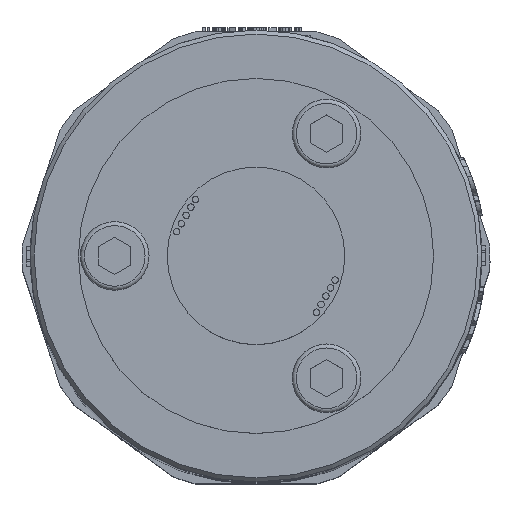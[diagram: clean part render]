
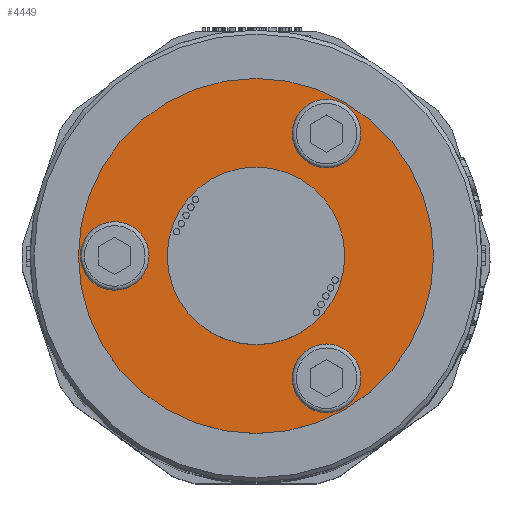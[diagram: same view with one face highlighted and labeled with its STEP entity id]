
A CAD part, top view. The second image highlights one B-rep face of the part: STEP entity #4449.
In plain terms, the highlighted planar face has unit normal (0, 0, 1).
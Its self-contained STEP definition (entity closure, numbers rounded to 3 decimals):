
#680=FACE_BOUND('',#7462,.T.);
#681=FACE_BOUND('',#7463,.T.);
#682=FACE_BOUND('',#7464,.T.);
#683=FACE_BOUND('',#7465,.T.);
#684=FACE_BOUND('',#7466,.T.);
#954=CIRCLE('',#21786,4.25);
#956=CIRCLE('',#21790,4.25);
#959=CIRCLE('',#21803,4.25);
#983=CIRCLE('',#21860,11.);
#984=CIRCLE('',#21862,22.);
#4449=ADVANCED_FACE('',(#680,#681,#682,#683,#684),#4992,.T.);
#4992=PLANE('',#21863);
#7462=EDGE_LOOP('',(#13446));
#7463=EDGE_LOOP('',(#13447));
#7464=EDGE_LOOP('',(#13448));
#7465=EDGE_LOOP('',(#13449));
#7466=EDGE_LOOP('',(#13450));
#13446=ORIENTED_EDGE('',*,*,#18368,.F.);
#13447=ORIENTED_EDGE('',*,*,#18370,.F.);
#13448=ORIENTED_EDGE('',*,*,#18391,.F.);
#13449=ORIENTED_EDGE('',*,*,#18434,.T.);
#13450=ORIENTED_EDGE('',*,*,#18433,.F.);
#15450=VERTEX_POINT('',#42510);
#15452=VERTEX_POINT('',#42516);
#15467=VERTEX_POINT('',#42562);
#15503=VERTEX_POINT('',#42673);
#15504=VERTEX_POINT('',#42676);
#18368=EDGE_CURVE('',#15450,#15450,#954,.T.);
#18370=EDGE_CURVE('',#15452,#15452,#956,.T.);
#18391=EDGE_CURVE('',#15467,#15467,#959,.T.);
#18433=EDGE_CURVE('',#15503,#15503,#983,.T.);
#18434=EDGE_CURVE('',#15504,#15504,#984,.T.);
#21786=AXIS2_PLACEMENT_3D('',#42509,#24966,#24967);
#21790=AXIS2_PLACEMENT_3D('',#42515,#24974,#24975);
#21803=AXIS2_PLACEMENT_3D('',#42561,#25018,#25019);
#21860=AXIS2_PLACEMENT_3D('',#42672,#25150,#25151);
#21862=AXIS2_PLACEMENT_3D('',#42675,#25154,#25155);
#21863=AXIS2_PLACEMENT_3D('',#42677,#25156,#25157);
#24966=DIRECTION('',(0.,0.,1.));
#24967=DIRECTION('',(-0.866,0.5,0.));
#24974=DIRECTION('',(0.,0.,1.));
#24975=DIRECTION('',(-0.866,0.5,0.));
#25018=DIRECTION('',(0.,0.,1.));
#25019=DIRECTION('',(-0.866,0.5,0.));
#25150=DIRECTION('',(0.,0.,1.));
#25151=DIRECTION('',(0.866,-0.5,0.));
#25154=DIRECTION('',(0.,0.,1.));
#25155=DIRECTION('',(0.866,-0.5,0.));
#25156=DIRECTION('',(0.,0.,1.));
#25157=DIRECTION('',(-0.866,0.5,0.));
#42509=CARTESIAN_POINT('',(8.75,-15.155,152.5));
#42510=CARTESIAN_POINT('',(5.069,-13.03,152.5));
#42515=CARTESIAN_POINT('',(8.75,15.155,152.5));
#42516=CARTESIAN_POINT('',(5.069,17.28,152.5));
#42561=CARTESIAN_POINT('',(-17.5,0.,152.5));
#42562=CARTESIAN_POINT('',(-21.181,2.125,152.5));
#42672=CARTESIAN_POINT('',(0.,0.,152.5));
#42673=CARTESIAN_POINT('',(9.526,-5.5,152.5));
#42675=CARTESIAN_POINT('',(0.,0.,152.5));
#42676=CARTESIAN_POINT('',(19.053,-11.,152.5));
#42677=CARTESIAN_POINT('',(0.,0.,152.5));
